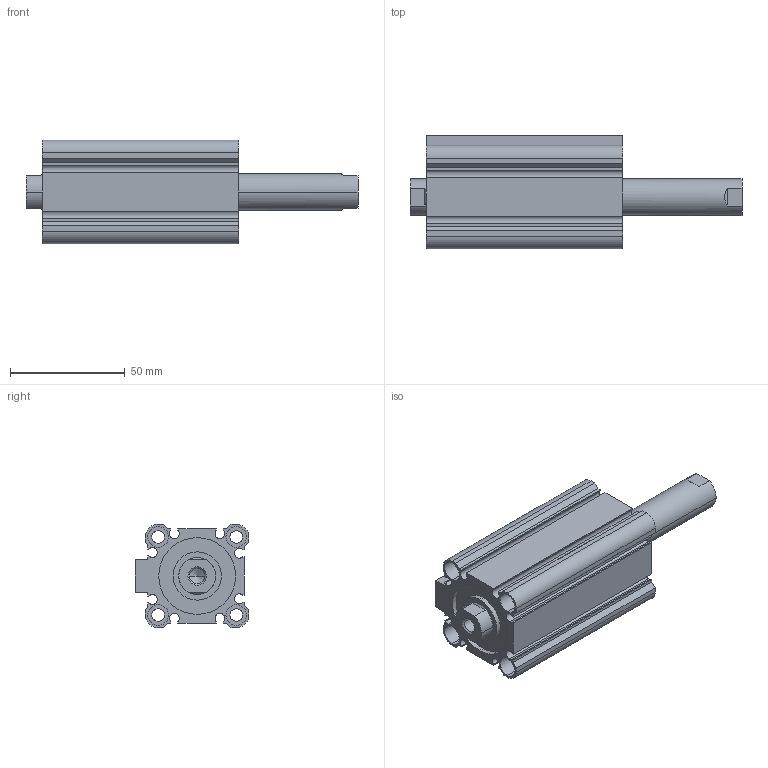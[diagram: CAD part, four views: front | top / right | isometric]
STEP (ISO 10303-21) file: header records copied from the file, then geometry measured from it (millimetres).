
FILE_DESCRIPTION (( 'STEP AP203' ), '1' );
FILE_NAME ('CCMB32-45F-P.STEP', '2020-08-05T11:15:46', ( '' ), ( '' ), 'SwSTEP 2.0', 'SolidWorks 2019', '' );
FILE_SCHEMA (( 'CONFIG_CONTROL_DESIGN' ));
Length unit declared in the file: millimetre
Products named in the file (1): CCMB32-45F-P
Bounding box: 144.5 x 49.5 x 45 mm (x, y, z)
Volume: 121422.4 mm3; surface area: 51309.7 mm2
Topology: 2 solids, 2 shells, 164 faces, 414 edges, 270 vertices
Faces by surface type: plane 78, cylinder 74, cone 12
Entity records: 5029 total; most frequent: DIRECTION 896, CARTESIAN_POINT 857, ORIENTED_EDGE 820, EDGE_CURVE 410, AXIS2_PLACEMENT_3D 325, VERTEX_POINT 270, LINE 246, VECTOR 246
